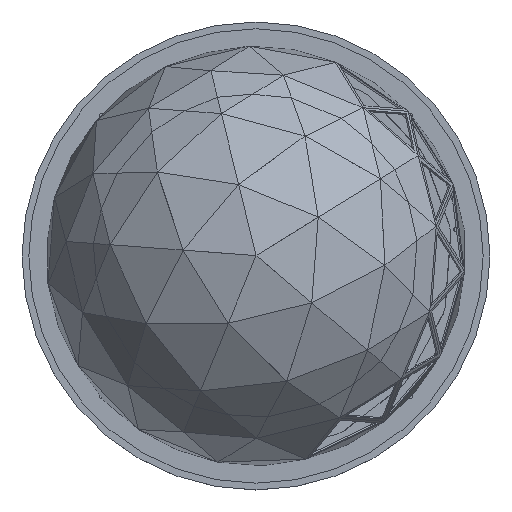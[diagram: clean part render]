
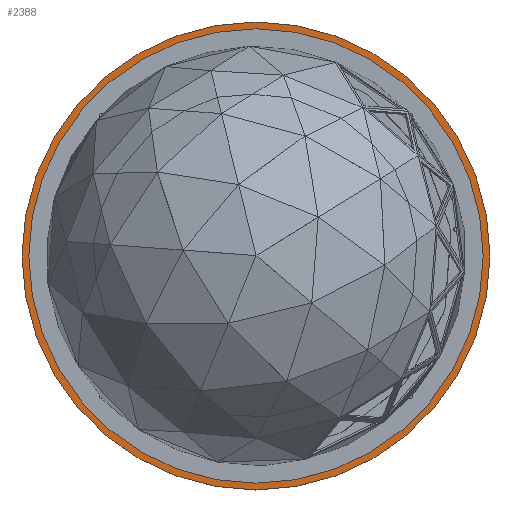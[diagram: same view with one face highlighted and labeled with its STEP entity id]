
A CAD part, top view. The second image highlights one B-rep face of the part: STEP entity #2388.
In plain terms, the highlighted planar face has unit normal (0, 0, 1).
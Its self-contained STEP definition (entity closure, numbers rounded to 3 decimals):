
#1157 = VERTEX_POINT('',#1158);
#1158 = CARTESIAN_POINT('',(103.,0.,79.));
#1163 = EDGE_CURVE('',#1157,#1157,#1164,.T.);
#1164 = CIRCLE('',#1165,103.);
#1165 = AXIS2_PLACEMENT_3D('',#1166,#1167,#1168);
#1166 = CARTESIAN_POINT('',(0.,0.,79.));
#1167 = DIRECTION('',(0.,0.,1.));
#1168 = DIRECTION('',(1.,0.,-0.));
#2388 = ADVANCED_FACE('',(#2389,#2392),#2403,.T.);
#2389 = FACE_BOUND('',#2390,.T.);
#2390 = EDGE_LOOP('',(#2391));
#2391 = ORIENTED_EDGE('',*,*,#1163,.T.);
#2392 = FACE_BOUND('',#2393,.T.);
#2393 = EDGE_LOOP('',(#2394));
#2394 = ORIENTED_EDGE('',*,*,#2395,.F.);
#2395 = EDGE_CURVE('',#2396,#2396,#2398,.T.);
#2396 = VERTEX_POINT('',#2397);
#2397 = CARTESIAN_POINT('',(100.,0.,79.));
#2398 = CIRCLE('',#2399,100.);
#2399 = AXIS2_PLACEMENT_3D('',#2400,#2401,#2402);
#2400 = CARTESIAN_POINT('',(0.,0.,79.));
#2401 = DIRECTION('',(0.,0.,1.));
#2402 = DIRECTION('',(1.,0.,-0.));
#2403 = PLANE('',#2404);
#2404 = AXIS2_PLACEMENT_3D('',#2405,#2406,#2407);
#2405 = CARTESIAN_POINT('',(0.,0.,79.));
#2406 = DIRECTION('',(0.,0.,1.));
#2407 = DIRECTION('',(1.,0.,-0.));
